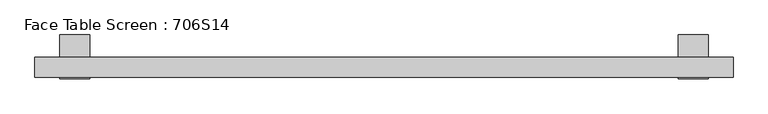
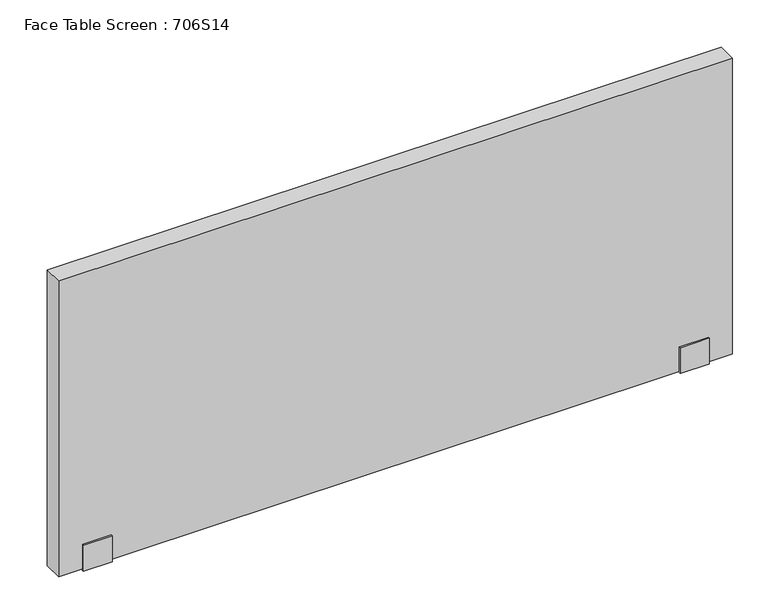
"""IFC4 building model written with IfcOpenShell, lengths in millimetres: furniture geometry, Face Table Screen : 706S14."""

from ifc_helpers import new_model, si_unit, frame, origin, place, context, project, spatial, polyline, outline, extrude, source, transform, mapped, element, save


def face_table_screen_706s14_dbaba91a(model_context):
    return source(origin(), model_context, "Body", "SweptSolid", [
        extrude(outline(polyline([(-22.9999947, -256.0), (-22.9999997, -199.0433898), (-20.0, -199.0433898), (-20.0, -253.0), (20.0, -253.0), (20.0, -22.0), (65.0, -22.0), (65.0, -25.0433898), (23.0000062, -25.0433898), (22.9999947, -256.0), (-22.9999947, -256.0)])), frame((590.0, 0.0, 0.0), z_axis=(1.0, 0.0, 0.0), x_axis=(0.0, 1.0, 0.0)), (0.0, 0.0, 1.0), 60.0),
        extrude(outline(polyline([(-22.9999947, -256.0), (-22.9999997, -199.0433898), (-20.0, -199.0433898), (-20.0, -253.0), (20.0, -253.0), (20.0, -22.0), (65.0, -22.0), (65.0, -25.0433898), (23.0000062, -25.0433898), (22.9999947, -256.0), (-22.9999947, -256.0)])), frame((-650.0, 0.0, 0.0), z_axis=(1.0, 0.0, 0.0), x_axis=(0.0, 1.0, 0.0)), (0.0, 0.0, 1.0), 60.0),
        extrude(outline(polyline([(700.0, -20.0), (-700.0, -20.0), (-700.0, 20.0), (700.0, 20.0), (700.0, -20.0)])), frame((0.0, 0.0, -253.0), z_axis=(0.0, 0.0, 1.0), x_axis=(1.0, 0.0, 0.0)), (0.0, 0.0, 1.0), 650.0),
    ])


if __name__ == "__main__":
    model = new_model("IFC4")
    model_context = context("Model", 3, world=origin())
    ifc_project = project(units=[si_unit("LENGTHUNIT", "METRE", prefix="MILLI")], contexts=[model_context])
    site = spatial("IfcSite", under=ifc_project)
    building = spatial("IfcBuilding", under=site)
    placement = place(None, origin())
    face_table_screen_706s14_shape = face_table_screen_706s14_dbaba91a(model_context)
    element("IfcFurniture", 1, ObjectType="Face Table Screen : 706S14", at=placement, inside=building, context=model_context, shape_type="MappedRepresentation", body=[
        mapped(face_table_screen_706s14_shape, transform((0.0, 0.0, 0.0), x_axis=(1.0, 0.0, 0.0), y_axis=(0.0, 1.0, 0.0), z_axis=(0.0, 0.0, 1.0))),
    ])
    save(model, "model.ifc")
